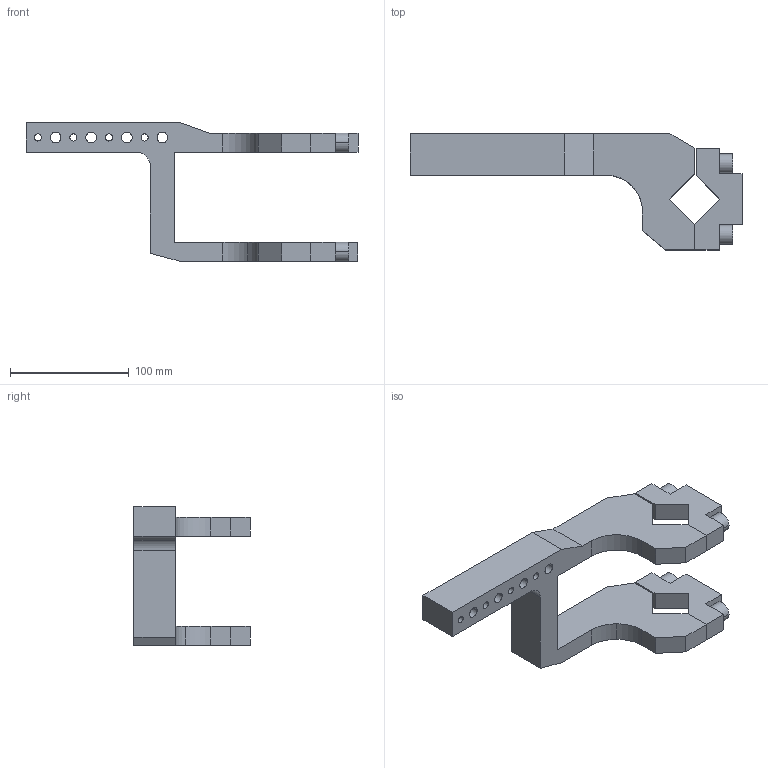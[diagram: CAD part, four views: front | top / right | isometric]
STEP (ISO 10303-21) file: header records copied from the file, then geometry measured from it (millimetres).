
FILE_DESCRIPTION((''),'2;1');
FILE_NAME('S:\Matthew\Step Files\XM Clamp Arms\XJ80-CAL-04.stp','2006-06-28T08:21:42',('Matthew'),(''),'Autodesk Inventor 8','Autodesk Inventor 8','');
FILE_SCHEMA(('AUTOMOTIVE_DESIGN { 1 0 10303 214 1 1 1 1 }'));
Length unit declared in the file: millimetre
Products named in the file (1): XJ80-CAL-04
Bounding box: 280 x 98 x 117 mm (x, y, z)
Volume: 428212.6 mm3; surface area: 92289.3 mm2
Topology: 1 solids, 3 shells, 118 faces, 306 edges, 192 vertices
Faces by surface type: bspline 49, plane 37, cylinder 24, cone 8
Entity records: 3864 total; most frequent: CARTESIAN_POINT 1050, ORIENTED_EDGE 596, DIRECTION 536, EDGE_CURVE 298, VECTOR 200, LINE 200, VERTEX_POINT 192, AXIS2_PLACEMENT_3D 168
